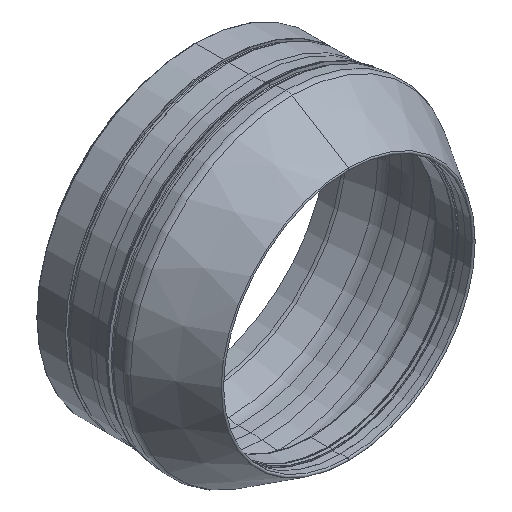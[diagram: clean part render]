
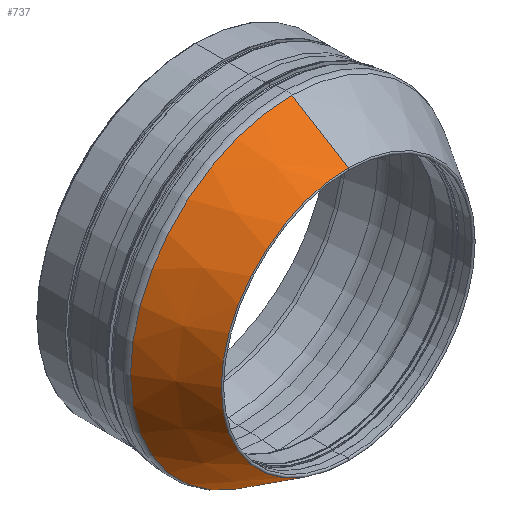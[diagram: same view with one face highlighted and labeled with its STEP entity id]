
A CAD part, isometric view. The second image highlights one B-rep face of the part: STEP entity #737.
In plain terms, the highlighted conical face has half-angle 31.5 degrees and reference radius 193.005 mm.
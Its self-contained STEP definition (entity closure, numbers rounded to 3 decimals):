
#673=CARTESIAN_POINT('Vertex',(0.,284.8,-193.005)) ;
#680=CARTESIAN_POINT('Vertex',(0.,284.8,193.005)) ;
#683=CARTESIAN_POINT('Axis2P3D Location',(0.,284.8,0.)) ;
#707=CARTESIAN_POINT('Axis2P3D Location',(0.,284.8,0.)) ;
#712=CARTESIAN_POINT('Line Origine',(0.,327.573,-219.216)) ;
#716=CARTESIAN_POINT('Vertex',(0.,370.345,-245.427)) ;
#719=CARTESIAN_POINT('Line Origine',(0.,327.573,219.216)) ;
#723=CARTESIAN_POINT('Vertex',(0.,370.345,245.427)) ;
#726=CARTESIAN_POINT('Axis2P3D Location',(0.,370.345,0.)) ;
#684=DIRECTION('Axis2P3D Direction',(0.,-1.,0.)) ;
#708=DIRECTION('Axis2P3D Direction',(-0.,1.,-0.)) ;
#709=DIRECTION('Axis2P3D XDirection',(0.,0.,1.)) ;
#713=DIRECTION('Vector Direction',(0.,0.853,-0.522)) ;
#720=DIRECTION('Vector Direction',(0.,0.853,0.522)) ;
#727=DIRECTION('Axis2P3D Direction',(0.,1.,-0.)) ;
#685=AXIS2_PLACEMENT_3D('Circle Axis2P3D',#683,#684,$) ;
#710=AXIS2_PLACEMENT_3D('Cone Axis2P3D',#707,#708,#709) ;
#728=AXIS2_PLACEMENT_3D('Circle Axis2P3D',#726,#727,$) ;
#732=ORIENTED_EDGE('',*,*,#718,.T.) ;
#733=ORIENTED_EDGE('',*,*,#687,.F.) ;
#734=ORIENTED_EDGE('',*,*,#725,.F.) ;
#735=ORIENTED_EDGE('',*,*,#730,.T.) ;
#714=VECTOR('Line Direction',#713,1.) ;
#721=VECTOR('Line Direction',#720,1.) ;
#737=ADVANCED_FACE('Corps principal',(#736),#711,.T.) ;
#686=CIRCLE('generated circle',#685,193.005) ;
#729=CIRCLE('generated circle',#728,245.427) ;
#711=CONICAL_SURFACE('Cone',#710,193.005,0.55) ;
#687=EDGE_CURVE('',#681,#674,#686,.T.) ;
#718=EDGE_CURVE('',#717,#674,#715,.F.) ;
#725=EDGE_CURVE('',#724,#681,#722,.F.) ;
#730=EDGE_CURVE('',#724,#717,#729,.F.) ;
#731=EDGE_LOOP('',(#732,#733,#734,#735)) ;
#736=FACE_OUTER_BOUND('',#731,.T.) ;
#715=LINE('Line',#712,#714) ;
#722=LINE('Line',#719,#721) ;
#674=VERTEX_POINT('',#673) ;
#681=VERTEX_POINT('',#680) ;
#717=VERTEX_POINT('',#716) ;
#724=VERTEX_POINT('',#723) ;
